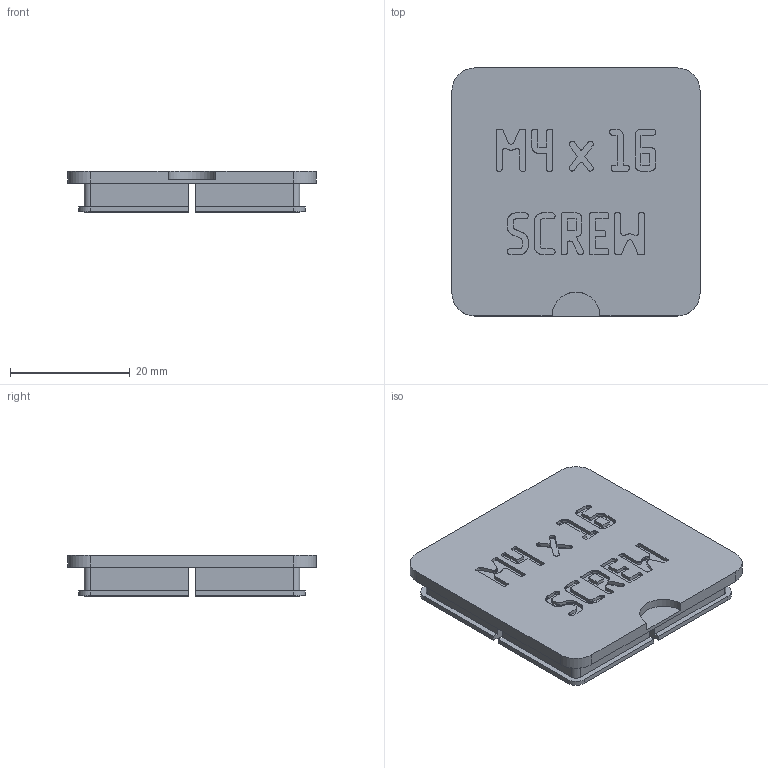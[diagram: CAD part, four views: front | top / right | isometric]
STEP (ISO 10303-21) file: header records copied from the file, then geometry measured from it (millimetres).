
FILE_DESCRIPTION(('Open CASCADE Model'),'2;1');
FILE_NAME('Open CASCADE Shape Model','2026-11-03T17:09:32',('Author'),( 'Open CASCADE'),'Open CASCADE STEP processor 8.0','build123d', 'Unknown');
FILE_SCHEMA(('AUTOMOTIVE_DESIGN { 1 0 10303 214 1 1 1 1 }'));
Products named in the file (1): COMPOUND
Bounding box: 41.5 x 41.5 x 6.9 mm (x, y, z)
Volume: 4184.1 mm3; surface area: 5543.9 mm2
Topology: 1 solids, 1 shells, 1170 faces, 3465 edges, 2310 vertices
Faces by surface type: plane 1149, cylinder 21
Entity records: 83298 total; most frequent: CARTESIAN_POINT 14232, DIRECTION 12583, LINE 10147, VECTOR 10147, ORIENTED_EDGE 6930, PCURVE 6930, DEFINITIONAL_REPRESENTATION 6930, EDGE_CURVE 3465
